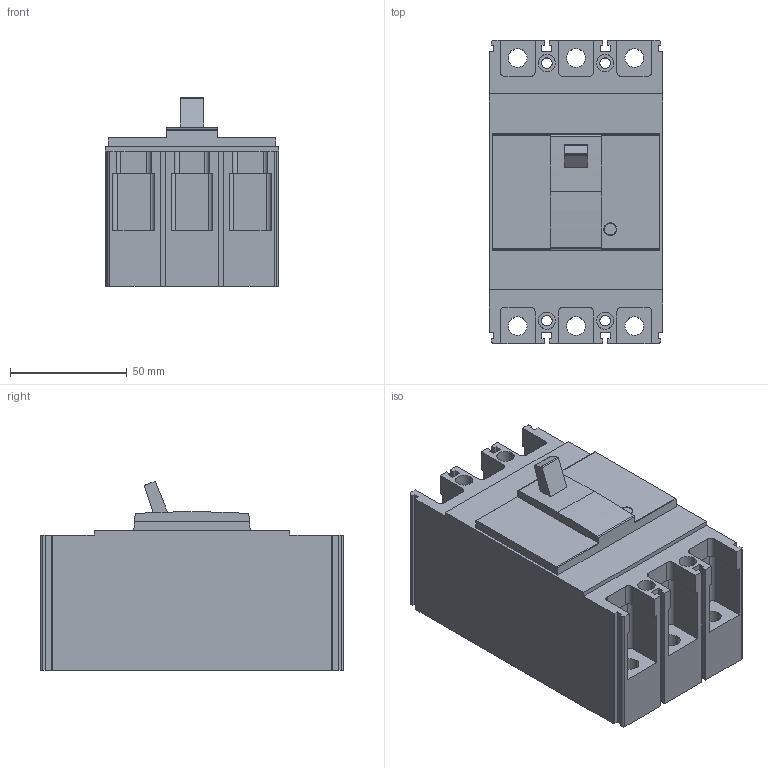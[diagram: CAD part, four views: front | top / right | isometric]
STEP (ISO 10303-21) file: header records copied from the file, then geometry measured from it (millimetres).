
FILE_DESCRIPTION (( 'STEP AP203' ), '1' );
FILE_NAME ('SMART 100AF 3P (60A 檜鼻).STEP', '2018-01-04T00:52:25', ( '' ), ( '' ), 'SwSTEP 2.0', 'SolidWorks 2015', '' );
FILE_SCHEMA (( 'CONFIG_CONTROL_DESIGN' ));
Length unit declared in the file: millimetre
Products named in the file (1): SMART 100AF 3P (60A 檜鼻)
Bounding box: 74.6 x 130 x 80.91 mm (x, y, z)
Volume: 521572.2 mm3; surface area: 62199.4 mm2
Topology: 1 solids, 1 shells, 198 faces, 615 edges, 411 vertices
Faces by surface type: plane 125, cylinder 73
Entity records: 7016 total; most frequent: ORIENTED_EDGE 1230, CARTESIAN_POINT 1225, DIRECTION 1177, EDGE_CURVE 615, VECTOR 451, LINE 451, VERTEX_POINT 411, AXIS2_PLACEMENT_3D 363
